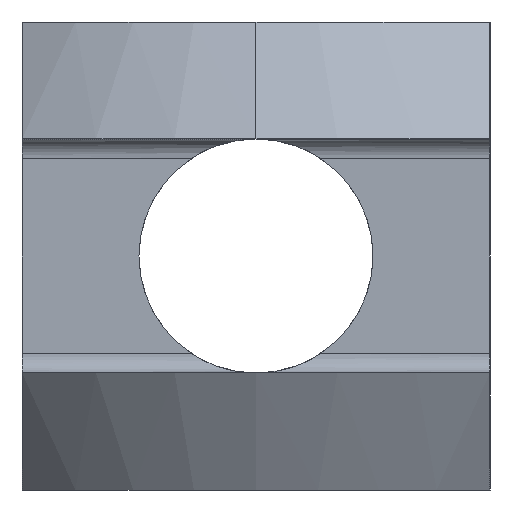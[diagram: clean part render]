
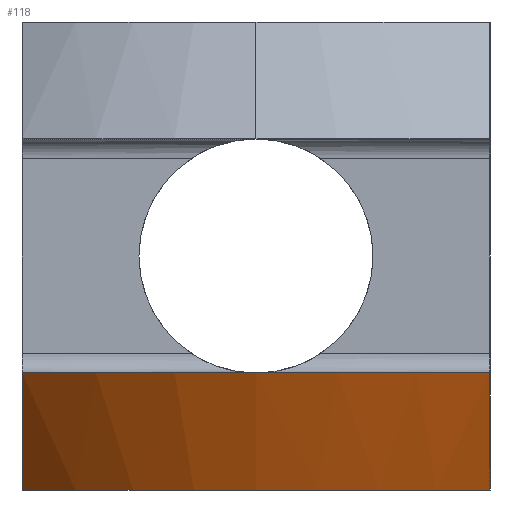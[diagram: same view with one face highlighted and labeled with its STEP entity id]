
A CAD part, left-side view. The second image highlights one B-rep face of the part: STEP entity #118.
In plain terms, the highlighted conical face has half-angle 30 degrees and reference radius 24 mm.
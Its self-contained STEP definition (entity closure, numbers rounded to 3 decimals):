
#88 = EDGE_LOOP ( 'NONE', ( #124, #125, #123, #121 ) ) ;
#118 = ADVANCED_FACE ( 'NONE', ( #408 ), #463, .T. ) ;
#121 = ORIENTED_EDGE ( 'NONE', *, *, #157, .F. ) ;
#123 = ORIENTED_EDGE ( 'NONE', *, *, #144, .T. ) ;
#124 = ORIENTED_EDGE ( 'NONE', *, *, #1310, .F. ) ;
#125 = ORIENTED_EDGE ( 'NONE', *, *, #1166, .F. ) ;
#144 = EDGE_CURVE ( 'NONE', #147, #158, #482, .T. ) ;
#147 = VERTEX_POINT ( 'NONE', #477 ) ;
#157 = EDGE_CURVE ( 'NONE', #1283, #158, #468, .T. ) ;
#158 = VERTEX_POINT ( 'NONE', #520 ) ;
#243 = CARTESIAN_POINT ( 'NONE',  ( -78.665, -12., -12. ) ) ;
#408 = FACE_OUTER_BOUND ( 'NONE', #88, .T. ) ;
#459 = DIRECTION ( 'NONE',  ( 1., 0., 0. ) ) ;
#460 = DIRECTION ( 'NONE',  ( 0., 0., 1. ) ) ;
#461 = CARTESIAN_POINT ( 'NONE',  ( -62., 0., -6. ) ) ;
#462 = AXIS2_PLACEMENT_3D ( 'NONE', #461, #460, #459 ) ;
#463 = CONICAL_SURFACE ( 'NONE', #462, 24., 0.524 ) ;
#465 = CARTESIAN_POINT ( 'NONE',  ( -80.072, -12., -10.022 ) ) ;
#466 = CARTESIAN_POINT ( 'NONE',  ( -81.439, -12., -8.018 ) ) ;
#467 = CARTESIAN_POINT ( 'NONE',  ( -82.785, -12., -6. ) ) ;
#468 = B_SPLINE_CURVE_WITH_KNOTS ( 'NONE', 3,
 ( #467, #466, #465, #243 ),
 .UNSPECIFIED., .F., .F.,
 ( 4, 4 ),
 ( 0.018, 0.025 ),
 .UNSPECIFIED. ) ;
#477 = CARTESIAN_POINT ( 'NONE',  ( -78.665, 12., -12. ) ) ;
#478 = DIRECTION ( 'NONE',  ( 1., 0., 0. ) ) ;
#479 = DIRECTION ( 'NONE',  ( 0., 0., 1. ) ) ;
#480 = CARTESIAN_POINT ( 'NONE',  ( -62., 0., -12. ) ) ;
#481 = AXIS2_PLACEMENT_3D ( 'NONE', #480, #479, #478 ) ;
#482 = CIRCLE ( 'NONE', #481, 20.536 ) ;
#520 = CARTESIAN_POINT ( 'NONE',  ( -78.665, -12., -12. ) ) ;
#781 = CARTESIAN_POINT ( 'NONE',  ( -82.785, 12., -6. ) ) ;
#782 = CARTESIAN_POINT ( 'NONE',  ( -81.439, 12., -8.018 ) ) ;
#783 = CARTESIAN_POINT ( 'NONE',  ( -80.072, 12., -10.022 ) ) ;
#784 = CARTESIAN_POINT ( 'NONE',  ( -78.665, 12., -12. ) ) ;
#786 = B_SPLINE_CURVE_WITH_KNOTS ( 'NONE', 3,
 ( #784, #783, #782, #781 ),
 .UNSPECIFIED., .F., .F.,
 ( 4, 4 ),
 ( 0.043, 0.05 ),
 .UNSPECIFIED. ) ;
#1010 = CARTESIAN_POINT ( 'NONE',  ( -82.785, 12., -6. ) ) ;
#1013 = CARTESIAN_POINT ( 'NONE',  ( -82.785, -12., -6. ) ) ;
#1018 = CIRCLE ( 'NONE', #1060, 24. ) ;
#1057 = DIRECTION ( 'NONE',  ( 1., 0., 0. ) ) ;
#1058 = DIRECTION ( 'NONE',  ( 0., 0., 1. ) ) ;
#1059 = CARTESIAN_POINT ( 'NONE',  ( -62., 0., -6. ) ) ;
#1060 = AXIS2_PLACEMENT_3D ( 'NONE', #1059, #1058, #1057 ) ;
#1166 = EDGE_CURVE ( 'NONE', #147, #1284, #786, .T. ) ;
#1283 = VERTEX_POINT ( 'NONE', #1013 ) ;
#1284 = VERTEX_POINT ( 'NONE', #1010 ) ;
#1310 = EDGE_CURVE ( 'NONE', #1284, #1283, #1018, .T. ) ;
